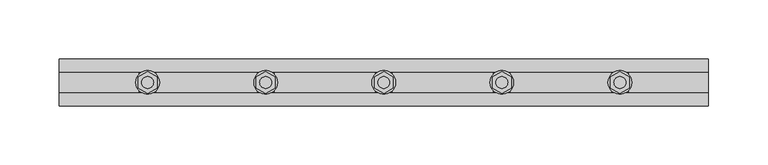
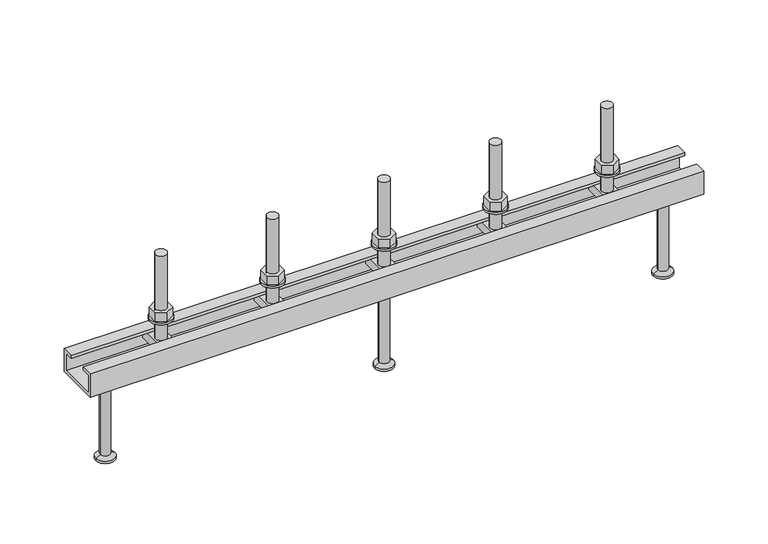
"""IFC4 building model written with IfcOpenShell, lengths in millimetres: fastener geometry, JTA-W JORDAHL® AnchorChannels : JTA-W L=550 mm."""

from ifc_helpers import new_model, si_unit, point, frame, frame_2d, origin, place, context, project, spatial, polyline, circle_curve, trimmed, segment, composite_curve, outline, extrude, source, transform, mapped, element, save
from ifc_brep_helpers import plane_surface, cylinder_surface, revolved_surface, advanced_brep


def fastener_e7c263a5(model_context):
    return source(origin(), model_context, "Body", "SolidModel", [
        extrude(outline(polyline([(375.0, 9.2376043), (383.0, 4.6188022), (383.0, -4.6188022), (375.0, -9.2376043), (367.0, -4.6188022), (367.0, 4.6188022), (375.0, 9.2376043)]), holes=[composite_curve([segment(trimmed(circle_curve(frame_2d((375.0, 0.0)), 5.0), [point((370.0, 0.0))], [point((380.0, 0.0))], True, "CARTESIAN"), True, "CONTINUOUS"), segment(trimmed(circle_curve(frame_2d((375.0, 0.0)), 5.0), [point((380.0, 0.0))], [point((370.0, 0.0))], True, "CARTESIAN"), True, "CONTINUOUS")], self_intersect=False)]), frame((0.0, 0.0, 17.0), z_axis=(0.0, 0.0, 1.0), x_axis=(1.0, 0.0, 0.0)), (0.0, 0.0, 1.0), 8.4),
        extrude(outline(composite_curve([segment(trimmed(circle_curve(frame_2d((375.0, 0.0)), 10.0), [point((365.0, 0.0))], [point((385.0, 0.0))], False, "CARTESIAN"), True, "CONTINUOUS"), segment(trimmed(circle_curve(frame_2d((375.0, 0.0)), 10.0), [point((385.0, 0.0))], [point((365.0, 0.0))], False, "CARTESIAN"), True, "CONTINUOUS")], self_intersect=False), holes=[composite_curve([segment(trimmed(circle_curve(frame_2d((375.0, 0.0)), 5.25), [point((369.75, 0.0))], [point((380.25, 0.0))], True, "CARTESIAN"), True, "CONTINUOUS"), segment(trimmed(circle_curve(frame_2d((375.0, 0.0)), 5.25), [point((380.25, 0.0))], [point((369.75, 0.0))], True, "CARTESIAN"), True, "CONTINUOUS")], self_intersect=False)]), frame((0.0, 0.0, 15.0), z_axis=(0.0, 0.0, 1.0), x_axis=(1.0, 0.0, 0.0)), (0.0, 0.0, 1.0), 2.0),
        extrude(outline(polyline([(275.0, 9.2376043), (283.0, 4.6188022), (283.0, -4.6188022), (275.0, -9.2376043), (267.0, -4.6188022), (267.0, 4.6188022), (275.0, 9.2376043)]), holes=[composite_curve([segment(trimmed(circle_curve(frame_2d((275.0, 0.0)), 5.0), [point((270.0, 0.0))], [point((280.0, 0.0))], True, "CARTESIAN"), True, "CONTINUOUS"), segment(trimmed(circle_curve(frame_2d((275.0, 0.0)), 5.0), [point((280.0, 0.0))], [point((270.0, 0.0))], True, "CARTESIAN"), True, "CONTINUOUS")], self_intersect=False)]), frame((0.0, 0.0, 17.0), z_axis=(0.0, 0.0, 1.0), x_axis=(1.0, 0.0, 0.0)), (0.0, 0.0, 1.0), 8.4),
        extrude(outline(composite_curve([segment(trimmed(circle_curve(frame_2d((275.0, 0.0)), 10.0), [point((265.0, 0.0))], [point((285.0, 0.0))], False, "CARTESIAN"), True, "CONTINUOUS"), segment(trimmed(circle_curve(frame_2d((275.0, 0.0)), 10.0), [point((285.0, 0.0))], [point((265.0, 0.0))], False, "CARTESIAN"), True, "CONTINUOUS")], self_intersect=False), holes=[composite_curve([segment(trimmed(circle_curve(frame_2d((275.0, 0.0)), 5.25), [point((269.75, 0.0))], [point((280.25, 0.0))], True, "CARTESIAN"), True, "CONTINUOUS"), segment(trimmed(circle_curve(frame_2d((275.0, 0.0)), 5.25), [point((280.25, 0.0))], [point((269.75, 0.0))], True, "CARTESIAN"), True, "CONTINUOUS")], self_intersect=False)]), frame((0.0, 0.0, 15.0), z_axis=(0.0, 0.0, 1.0), x_axis=(1.0, 0.0, 0.0)), (0.0, 0.0, 1.0), 2.0),
        extrude(outline(polyline([(175.0, 9.2376043), (183.0, 4.6188022), (183.0, -4.6188022), (175.0, -9.2376043), (167.0, -4.6188022), (167.0, 4.6188022), (175.0, 9.2376043)]), holes=[composite_curve([segment(trimmed(circle_curve(frame_2d((175.0, 0.0)), 5.0), [point((170.0, 0.0))], [point((180.0, 0.0))], True, "CARTESIAN"), True, "CONTINUOUS"), segment(trimmed(circle_curve(frame_2d((175.0, 0.0)), 5.0), [point((180.0, 0.0))], [point((170.0, 0.0))], True, "CARTESIAN"), True, "CONTINUOUS")], self_intersect=False)]), frame((0.0, 0.0, 17.0), z_axis=(0.0, 0.0, 1.0), x_axis=(1.0, 0.0, 0.0)), (0.0, 0.0, 1.0), 8.4),
        extrude(outline(composite_curve([segment(trimmed(circle_curve(frame_2d((175.0, 0.0)), 10.0), [point((165.0, 0.0))], [point((185.0, 0.0))], False, "CARTESIAN"), True, "CONTINUOUS"), segment(trimmed(circle_curve(frame_2d((175.0, 0.0)), 10.0), [point((185.0, 0.0))], [point((165.0, 0.0))], False, "CARTESIAN"), True, "CONTINUOUS")], self_intersect=False), holes=[composite_curve([segment(trimmed(circle_curve(frame_2d((175.0, 0.0)), 5.25), [point((169.75, 0.0))], [point((180.25, 0.0))], True, "CARTESIAN"), True, "CONTINUOUS"), segment(trimmed(circle_curve(frame_2d((175.0, 0.0)), 5.25), [point((180.25, 0.0))], [point((169.75, 0.0))], True, "CARTESIAN"), True, "CONTINUOUS")], self_intersect=False)]), frame((0.0, 0.0, 15.0), z_axis=(0.0, 0.0, 1.0), x_axis=(1.0, 0.0, 0.0)), (0.0, 0.0, 1.0), 2.0),
        advanced_brep(
        [(382.0, 16.25, -3.0), (382.0, -16.25, -3.0), (382.0, -16.25, -11.0), (382.0, 16.25, -11.0), (368.0, 16.25, -3.0), (368.0, 16.25, -11.0), (368.0, -16.25, -11.0), (368.0, -16.25, -3.0), (380.0, 0.0, -3.0), (370.0, 0.0, -3.0), (370.0, 0.0, 77.0), (380.0, 0.0, 77.0)],
        [
            (0, 1),
            (1, 2),
            (2, 3),
            (3, 0),
            (4, 5),
            (5, 6),
            (6, 7),
            (7, 4),
            (0, 4),
            (7, 1),
            (8, 9, circle_curve(frame((375.0, 0.0, -3.0), z_axis=(0.0, 0.0, -1.0), x_axis=(1.0, 0.0, 0.0)), 5.0)),
            (9, 8, circle_curve(frame((375.0, 0.0, -3.0), z_axis=(0.0, 0.0, -1.0), x_axis=(1.0, 0.0, 0.0)), 5.0)),
            (6, 2),
            (5, 3),
            (10, 11, circle_curve(frame((375.0, 0.0, 77.0), z_axis=(0.0, 0.0, 1.0), x_axis=(1.0, 0.0, 0.0)), 5.0)),
            (11, 10, circle_curve(frame((375.0, 0.0, 77.0), z_axis=(0.0, 0.0, 1.0), x_axis=(1.0, 0.0, 0.0)), 5.0)),
            (10, 9),
            (8, 11),
        ],
        [
            plane_surface(frame((382.0, -16.25, -3.0), z_axis=(1.0, 0.0, 0.0), x_axis=(0.0, -1.0, 0.0))),
            plane_surface(frame((368.0, -16.25, -3.0), z_axis=(-1.0, 0.0, 0.0), x_axis=(0.0, 1.0, 0.0))),
            plane_surface(frame((382.0, 16.25, -3.0), z_axis=(0.0, 0.0, 1.0), x_axis=(-1.0, 0.0, 0.0))),
            plane_surface(frame((382.0, -16.25, -3.0), z_axis=(0.0, -1.0, 0.0), x_axis=(-1.0, 0.0, 0.0))),
            plane_surface(frame((382.0, -16.25, -11.0), z_axis=(0.0, 0.0, -1.0), x_axis=(-1.0, 0.0, 0.0))),
            plane_surface(frame((382.0, 16.25, -11.0), z_axis=(0.0, 1.0, 0.0), x_axis=(-1.0, 0.0, 0.0))),
            plane_surface(frame((380.0, 0.0, 77.0), z_axis=(0.0, 0.0, 1.0), x_axis=(0.0, 1.0, 0.0))),
            cylinder_surface(frame((375.0, 0.0, -3.0), z_axis=(0.0, 0.0, 1.0), x_axis=(1.0, 0.0, 0.0)), 5.0),
        ],
        [
            (0, [[1, 2, 3, 4]]),
            (1, [[5, 6, 7, 8]]),
            (2, [[-1, 9, -8, 10], [11, 12]]),
            (3, [[-2, -10, -7, 13]]),
            (4, [[-3, -13, -6, 14]]),
            (5, [[-4, -14, -5, -9]]),
            (6, [[15, 16]]),
            (7, [[-15, 17, -11, 18]]),
            (7, [[-16, -18, -12, -17]]),
        ],
    ),
        advanced_brep(
        [(282.0, 16.25, -3.0), (282.0, -16.25, -3.0), (282.0, -16.25, -11.0), (282.0, 16.25, -11.0), (268.0, 16.25, -3.0), (268.0, 16.25, -11.0), (268.0, -16.25, -11.0), (268.0, -16.25, -3.0), (280.0, 0.0, -3.0), (270.0, 0.0, -3.0), (270.0, 0.0, 77.0), (280.0, 0.0, 77.0)],
        [
            (0, 1),
            (1, 2),
            (2, 3),
            (3, 0),
            (4, 5),
            (5, 6),
            (6, 7),
            (7, 4),
            (0, 4),
            (7, 1),
            (8, 9, circle_curve(frame((275.0, 0.0, -3.0), z_axis=(0.0, 0.0, -1.0), x_axis=(1.0, 0.0, 0.0)), 5.0)),
            (9, 8, circle_curve(frame((275.0, 0.0, -3.0), z_axis=(0.0, 0.0, -1.0), x_axis=(1.0, 0.0, 0.0)), 5.0)),
            (6, 2),
            (5, 3),
            (10, 11, circle_curve(frame((275.0, 0.0, 77.0), z_axis=(0.0, 0.0, 1.0), x_axis=(1.0, 0.0, 0.0)), 5.0)),
            (11, 10, circle_curve(frame((275.0, 0.0, 77.0), z_axis=(0.0, 0.0, 1.0), x_axis=(1.0, 0.0, 0.0)), 5.0)),
            (10, 9),
            (8, 11),
        ],
        [
            plane_surface(frame((282.0, -16.25, -3.0), z_axis=(1.0, 0.0, 0.0), x_axis=(0.0, -1.0, 0.0))),
            plane_surface(frame((268.0, -16.25, -3.0), z_axis=(-1.0, 0.0, 0.0), x_axis=(0.0, 1.0, 0.0))),
            plane_surface(frame((282.0, 16.25, -3.0), z_axis=(0.0, 0.0, 1.0), x_axis=(-1.0, 0.0, 0.0))),
            plane_surface(frame((282.0, -16.25, -3.0), z_axis=(0.0, -1.0, 0.0), x_axis=(-1.0, 0.0, 0.0))),
            plane_surface(frame((282.0, -16.25, -11.0), z_axis=(0.0, 0.0, -1.0), x_axis=(-1.0, 0.0, 0.0))),
            plane_surface(frame((282.0, 16.25, -11.0), z_axis=(0.0, 1.0, 0.0), x_axis=(-1.0, 0.0, 0.0))),
            plane_surface(frame((280.0, 0.0, 77.0), z_axis=(0.0, 0.0, 1.0), x_axis=(0.0, 1.0, 0.0))),
            cylinder_surface(frame((275.0, 0.0, -3.0), z_axis=(0.0, 0.0, 1.0), x_axis=(1.0, 0.0, 0.0)), 5.0),
        ],
        [
            (0, [[1, 2, 3, 4]]),
            (1, [[5, 6, 7, 8]]),
            (2, [[-1, 9, -8, 10], [11, 12]]),
            (3, [[-2, -10, -7, 13]]),
            (4, [[-3, -13, -6, 14]]),
            (5, [[-4, -14, -5, -9]]),
            (6, [[15, 16]]),
            (7, [[-15, 17, -11, 18]]),
            (7, [[-16, -18, -12, -17]]),
        ],
    ),
        advanced_brep(
        [(182.0, 16.25, -3.0), (182.0, -16.25, -3.0), (182.0, -16.25, -11.0), (182.0, 16.25, -11.0), (168.0, 16.25, -3.0), (168.0, 16.25, -11.0), (168.0, -16.25, -11.0), (168.0, -16.25, -3.0), (180.0, 0.0, -3.0), (170.0, 0.0, -3.0), (170.0, 0.0, 77.0), (180.0, 0.0, 77.0)],
        [
            (0, 1),
            (1, 2),
            (2, 3),
            (3, 0),
            (4, 5),
            (5, 6),
            (6, 7),
            (7, 4),
            (0, 4),
            (7, 1),
            (8, 9, circle_curve(frame((175.0, 0.0, -3.0), z_axis=(0.0, 0.0, -1.0), x_axis=(1.0, 0.0, 0.0)), 5.0)),
            (9, 8, circle_curve(frame((175.0, 0.0, -3.0), z_axis=(0.0, 0.0, -1.0), x_axis=(1.0, 0.0, 0.0)), 5.0)),
            (6, 2),
            (5, 3),
            (10, 11, circle_curve(frame((175.0, 0.0, 77.0), z_axis=(0.0, 0.0, 1.0), x_axis=(1.0, 0.0, 0.0)), 5.0)),
            (11, 10, circle_curve(frame((175.0, 0.0, 77.0), z_axis=(0.0, 0.0, 1.0), x_axis=(1.0, 0.0, 0.0)), 5.0)),
            (10, 9),
            (8, 11),
        ],
        [
            plane_surface(frame((182.0, -16.25, -3.0), z_axis=(1.0, 0.0, 0.0), x_axis=(0.0, -1.0, 0.0))),
            plane_surface(frame((168.0, -16.25, -3.0), z_axis=(-1.0, 0.0, 0.0), x_axis=(0.0, 1.0, 0.0))),
            plane_surface(frame((182.0, 16.25, -3.0), z_axis=(0.0, 0.0, 1.0), x_axis=(-1.0, 0.0, 0.0))),
            plane_surface(frame((182.0, -16.25, -3.0), z_axis=(0.0, -1.0, 0.0), x_axis=(-1.0, 0.0, 0.0))),
            plane_surface(frame((182.0, -16.25, -11.0), z_axis=(0.0, 0.0, -1.0), x_axis=(-1.0, 0.0, 0.0))),
            plane_surface(frame((182.0, 16.25, -11.0), z_axis=(0.0, 1.0, 0.0), x_axis=(-1.0, 0.0, 0.0))),
            plane_surface(frame((180.0, 0.0, 77.0), z_axis=(0.0, 0.0, 1.0), x_axis=(0.0, 1.0, 0.0))),
            cylinder_surface(frame((175.0, 0.0, -3.0), z_axis=(0.0, 0.0, 1.0), x_axis=(1.0, 0.0, 0.0)), 5.0),
        ],
        [
            (0, [[1, 2, 3, 4]]),
            (1, [[5, 6, 7, 8]]),
            (2, [[-1, 9, -8, 10], [11, 12]]),
            (3, [[-2, -10, -7, 13]]),
            (4, [[-3, -13, -6, 14]]),
            (5, [[-4, -14, -5, -9]]),
            (6, [[15, 16]]),
            (7, [[-15, 17, -11, 18]]),
            (7, [[-16, -18, -12, -17]]),
        ],
    ),
        advanced_brep(
        [(275.0, 0.0, -22.0), (288.5, 0.0, -22.0), (261.5, 0.0, -22.0), (266.5, 0.0, -100.0), (283.5, 0.0, -100.0), (275.0, 0.0, -100.0), (266.5, 0.0, -98.0), (283.5, 0.0, -98.0), (270.5, 0.0, -95.6905989), (279.5, 0.0, -95.6905989), (270.5, 0.0, -24.5), (279.5, 0.0, -24.5)],
        [
            (0, 1),
            (1, 2, circle_curve(frame((275.0, 0.0, -22.0), z_axis=(0.0, 0.0, 1.0), x_axis=(1.0, 0.0, 0.0)), 13.5)),
            (2, 0),
            (2, 1, circle_curve(frame((275.0, 0.0, -22.0), z_axis=(0.0, 0.0, 1.0), x_axis=(1.0, 0.0, 0.0)), 13.5)),
            (3, 4, circle_curve(frame((275.0, 0.0, -100.0), z_axis=(0.0, 0.0, -1.0), x_axis=(1.0, 0.0, 0.0)), 8.5)),
            (4, 5),
            (5, 3),
            (4, 3, circle_curve(frame((275.0, 0.0, -100.0), z_axis=(0.0, 0.0, -1.0), x_axis=(1.0, 0.0, 0.0)), 8.5)),
            (6, 7, circle_curve(frame((275.0, 0.0, -98.0), z_axis=(0.0, 0.0, -1.0), x_axis=(1.0, 0.0, 0.0)), 8.5)),
            (7, 4),
            (3, 6),
            (7, 6, circle_curve(frame((275.0, 0.0, -98.0), z_axis=(0.0, 0.0, -1.0), x_axis=(1.0, 0.0, 0.0)), 8.5)),
            (8, 9, circle_curve(frame((275.0, 0.0, -95.6905989), z_axis=(0.0, 0.0, -1.0), x_axis=(1.0, 0.0, 0.0)), 4.5)),
            (9, 7),
            (6, 8),
            (9, 8, circle_curve(frame((275.0, 0.0, -95.6905989), z_axis=(0.0, 0.0, -1.0), x_axis=(1.0, 0.0, 0.0)), 4.5)),
            (10, 11, circle_curve(frame((275.0, 0.0, -24.5), z_axis=(0.0, 0.0, -1.0), x_axis=(1.0, 0.0, 0.0)), 4.5)),
            (11, 9),
            (8, 10),
            (11, 10, circle_curve(frame((275.0, 0.0, -24.5), z_axis=(0.0, 0.0, -1.0), x_axis=(1.0, 0.0, 0.0)), 4.5)),
            (1, 11),
            (10, 2),
        ],
        [
            plane_surface(frame((275.0, 0.0, -22.0), z_axis=(0.0, 0.0, 1.0), x_axis=(1.0, 0.0, 0.0))),
            plane_surface(frame((275.0, 0.0, -100.0), z_axis=(0.0, 0.0, -1.0), x_axis=(1.0, 0.0, 0.0))),
            cylinder_surface(frame((275.0, 0.0, 2292.3150031), z_axis=(0.0, 0.0, 1.0), x_axis=(1.0, 0.0, 0.0)), 8.5),
            revolved_surface(polyline([(283.5, 0.0, -98.0), (279.5, 0.0, -95.6905989)]), (275.0, 0.0, 2292.3150031), (0.0, 0.0, 1.0)),
            cylinder_surface(frame((275.0, 0.0, 2292.3150031), z_axis=(0.0, 0.0, 1.0), x_axis=(1.0, 0.0, 0.0)), 4.5),
            revolved_surface(polyline([(279.5, 0.0, -24.5), (288.5, 0.0, -22.0)]), (275.0, 0.0, 2292.3150031), (0.0, 0.0, 1.0)),
        ],
        [
            (0, [[1, 2, 3]]),
            (0, [[-3, 4, -1]]),
            (1, [[5, 6, 7]]),
            (1, [[8, -7, -6]]),
            (2, [[9, 10, -5, 11]]),
            (2, [[12, -11, -8, -10]]),
            (3, [[13, 14, -9, 15]]),
            (3, [[16, -15, -12, -14]]),
            (4, [[17, 18, -13, 19]]),
            (4, [[20, -19, -16, -18]]),
            (5, [[-2, 21, -17, 22]]),
            (5, [[-4, -22, -20, -21]]),
        ],
    ),
        extrude(outline(polyline([(475.0, 9.2376043), (483.0, 4.6188022), (483.0, -4.6188022), (475.0, -9.2376043), (467.0, -4.6188022), (467.0, 4.6188022), (475.0, 9.2376043)]), holes=[composite_curve([segment(trimmed(circle_curve(frame_2d((475.0, 0.0)), 5.0), [point((470.0, 0.0))], [point((480.0, 0.0))], True, "CARTESIAN"), True, "CONTINUOUS"), segment(trimmed(circle_curve(frame_2d((475.0, 0.0)), 5.0), [point((480.0, 0.0))], [point((470.0, 0.0))], True, "CARTESIAN"), True, "CONTINUOUS")], self_intersect=False)]), frame((0.0, 0.0, 17.0), z_axis=(0.0, 0.0, 1.0), x_axis=(1.0, 0.0, 0.0)), (0.0, 0.0, 1.0), 8.4),
        extrude(outline(composite_curve([segment(trimmed(circle_curve(frame_2d((475.0, 0.0)), 10.0), [point((465.0, 0.0))], [point((485.0, 0.0))], False, "CARTESIAN"), True, "CONTINUOUS"), segment(trimmed(circle_curve(frame_2d((475.0, 0.0)), 10.0), [point((485.0, 0.0))], [point((465.0, 0.0))], False, "CARTESIAN"), True, "CONTINUOUS")], self_intersect=False), holes=[composite_curve([segment(trimmed(circle_curve(frame_2d((475.0, 0.0)), 5.25), [point((469.75, 0.0))], [point((480.25, 0.0))], True, "CARTESIAN"), True, "CONTINUOUS"), segment(trimmed(circle_curve(frame_2d((475.0, 0.0)), 5.25), [point((480.25, 0.0))], [point((469.75, 0.0))], True, "CARTESIAN"), True, "CONTINUOUS")], self_intersect=False)]), frame((0.0, 0.0, 15.0), z_axis=(0.0, 0.0, 1.0), x_axis=(1.0, 0.0, 0.0)), (0.0, 0.0, 1.0), 2.0),
        extrude(outline(polyline([(75.0, 9.2376043), (83.0, 4.6188022), (83.0, -4.6188022), (75.0, -9.2376043), (67.0, -4.6188022), (67.0, 4.6188022), (75.0, 9.2376043)]), holes=[composite_curve([segment(trimmed(circle_curve(frame_2d((75.0, 0.0)), 5.0), [point((70.0, 0.0))], [point((80.0, 0.0))], True, "CARTESIAN"), True, "CONTINUOUS"), segment(trimmed(circle_curve(frame_2d((75.0, 0.0)), 5.0), [point((80.0, 0.0))], [point((70.0, 0.0))], True, "CARTESIAN"), True, "CONTINUOUS")], self_intersect=False)]), frame((0.0, 0.0, 17.0), z_axis=(0.0, 0.0, 1.0), x_axis=(1.0, 0.0, 0.0)), (0.0, 0.0, 1.0), 8.4),
        extrude(outline(composite_curve([segment(trimmed(circle_curve(frame_2d((75.0, 0.0)), 10.0), [point((65.0, 0.0))], [point((85.0, 0.0))], False, "CARTESIAN"), True, "CONTINUOUS"), segment(trimmed(circle_curve(frame_2d((75.0, 0.0)), 10.0), [point((85.0, 0.0))], [point((65.0, 0.0))], False, "CARTESIAN"), True, "CONTINUOUS")], self_intersect=False), holes=[composite_curve([segment(trimmed(circle_curve(frame_2d((75.0, 0.0)), 5.25), [point((69.75, 0.0))], [point((80.25, 0.0))], True, "CARTESIAN"), True, "CONTINUOUS"), segment(trimmed(circle_curve(frame_2d((75.0, 0.0)), 5.25), [point((80.25, 0.0))], [point((69.75, 0.0))], True, "CARTESIAN"), True, "CONTINUOUS")], self_intersect=False)]), frame((0.0, 0.0, 15.0), z_axis=(0.0, 0.0, 1.0), x_axis=(1.0, 0.0, 0.0)), (0.0, 0.0, 1.0), 2.0),
        advanced_brep(
        [(482.0, 16.25, -3.0), (482.0, -16.25, -3.0), (482.0, -16.25, -11.0), (482.0, 16.25, -11.0), (468.0, 16.25, -3.0), (468.0, 16.25, -11.0), (468.0, -16.25, -11.0), (468.0, -16.25, -3.0), (480.0, 0.0, -3.0), (470.0, 0.0, -3.0), (470.0, 0.0, 77.0), (480.0, 0.0, 77.0)],
        [
            (0, 1),
            (1, 2),
            (2, 3),
            (3, 0),
            (4, 5),
            (5, 6),
            (6, 7),
            (7, 4),
            (0, 4),
            (7, 1),
            (8, 9, circle_curve(frame((475.0, 0.0, -3.0), z_axis=(0.0, 0.0, -1.0), x_axis=(1.0, 0.0, 0.0)), 5.0)),
            (9, 8, circle_curve(frame((475.0, 0.0, -3.0), z_axis=(0.0, 0.0, -1.0), x_axis=(1.0, 0.0, 0.0)), 5.0)),
            (6, 2),
            (5, 3),
            (10, 11, circle_curve(frame((475.0, 0.0, 77.0), z_axis=(0.0, 0.0, 1.0), x_axis=(1.0, 0.0, 0.0)), 5.0)),
            (11, 10, circle_curve(frame((475.0, 0.0, 77.0), z_axis=(0.0, 0.0, 1.0), x_axis=(1.0, 0.0, 0.0)), 5.0)),
            (10, 9),
            (8, 11),
        ],
        [
            plane_surface(frame((482.0, -16.25, -3.0), z_axis=(1.0, 0.0, 0.0), x_axis=(0.0, -1.0, 0.0))),
            plane_surface(frame((468.0, -16.25, -3.0), z_axis=(-1.0, 0.0, 0.0), x_axis=(0.0, 1.0, 0.0))),
            plane_surface(frame((482.0, 16.25, -3.0), z_axis=(0.0, 0.0, 1.0), x_axis=(-1.0, 0.0, 0.0))),
            plane_surface(frame((482.0, -16.25, -3.0), z_axis=(0.0, -1.0, 0.0), x_axis=(-1.0, 0.0, 0.0))),
            plane_surface(frame((482.0, -16.25, -11.0), z_axis=(0.0, 0.0, -1.0), x_axis=(-1.0, 0.0, 0.0))),
            plane_surface(frame((482.0, 16.25, -11.0), z_axis=(0.0, 1.0, 0.0), x_axis=(-1.0, 0.0, 0.0))),
            plane_surface(frame((480.0, 0.0, 77.0), z_axis=(0.0, 0.0, 1.0), x_axis=(0.0, 1.0, 0.0))),
            cylinder_surface(frame((475.0, 0.0, -3.0), z_axis=(0.0, 0.0, 1.0), x_axis=(1.0, 0.0, 0.0)), 5.0),
        ],
        [
            (0, [[1, 2, 3, 4]]),
            (1, [[5, 6, 7, 8]]),
            (2, [[-1, 9, -8, 10], [11, 12]]),
            (3, [[-2, -10, -7, 13]]),
            (4, [[-3, -13, -6, 14]]),
            (5, [[-4, -14, -5, -9]]),
            (6, [[15, 16]]),
            (7, [[-15, 17, -11, 18]]),
            (7, [[-16, -18, -12, -17]]),
        ],
    ),
        advanced_brep(
        [(82.0, 16.25, -3.0), (82.0, -16.25, -3.0), (82.0, -16.25, -11.0), (82.0, 16.25, -11.0), (68.0, 16.25, -3.0), (68.0, 16.25, -11.0), (68.0, -16.25, -11.0), (68.0, -16.25, -3.0), (80.0, 0.0, -3.0), (70.0, 0.0, -3.0), (70.0, 0.0, 77.0), (80.0, 0.0, 77.0)],
        [
            (0, 1),
            (1, 2),
            (2, 3),
            (3, 0),
            (4, 5),
            (5, 6),
            (6, 7),
            (7, 4),
            (0, 4),
            (7, 1),
            (8, 9, circle_curve(frame((75.0, 0.0, -3.0), z_axis=(0.0, 0.0, -1.0), x_axis=(1.0, 0.0, 0.0)), 5.0)),
            (9, 8, circle_curve(frame((75.0, 0.0, -3.0), z_axis=(0.0, 0.0, -1.0), x_axis=(1.0, 0.0, 0.0)), 5.0)),
            (6, 2),
            (5, 3),
            (10, 11, circle_curve(frame((75.0, 0.0, 77.0), z_axis=(0.0, 0.0, 1.0), x_axis=(1.0, 0.0, 0.0)), 5.0)),
            (11, 10, circle_curve(frame((75.0, 0.0, 77.0), z_axis=(0.0, 0.0, 1.0), x_axis=(1.0, 0.0, 0.0)), 5.0)),
            (10, 9),
            (8, 11),
        ],
        [
            plane_surface(frame((82.0, -16.25, -3.0), z_axis=(1.0, 0.0, 0.0), x_axis=(0.0, -1.0, 0.0))),
            plane_surface(frame((68.0, -16.25, -3.0), z_axis=(-1.0, 0.0, 0.0), x_axis=(0.0, 1.0, 0.0))),
            plane_surface(frame((82.0, 16.25, -3.0), z_axis=(0.0, 0.0, 1.0), x_axis=(-1.0, 0.0, 0.0))),
            plane_surface(frame((82.0, -16.25, -3.0), z_axis=(0.0, -1.0, 0.0), x_axis=(-1.0, 0.0, 0.0))),
            plane_surface(frame((82.0, -16.25, -11.0), z_axis=(0.0, 0.0, -1.0), x_axis=(-1.0, 0.0, 0.0))),
            plane_surface(frame((82.0, 16.25, -11.0), z_axis=(0.0, 1.0, 0.0), x_axis=(-1.0, 0.0, 0.0))),
            plane_surface(frame((80.0, 0.0, 77.0), z_axis=(0.0, 0.0, 1.0), x_axis=(0.0, 1.0, 0.0))),
            cylinder_surface(frame((75.0, 0.0, -3.0), z_axis=(0.0, 0.0, 1.0), x_axis=(1.0, 0.0, 0.0)), 5.0),
        ],
        [
            (0, [[1, 2, 3, 4]]),
            (1, [[5, 6, 7, 8]]),
            (2, [[-1, 9, -8, 10], [11, 12]]),
            (3, [[-2, -10, -7, 13]]),
            (4, [[-3, -13, -6, 14]]),
            (5, [[-4, -14, -5, -9]]),
            (6, [[15, 16]]),
            (7, [[-15, 17, -11, 18]]),
            (7, [[-16, -18, -12, -17]]),
        ],
    ),
        advanced_brep(
        [(525.0, 0.0, -22.0), (538.5, 0.0, -22.0), (511.5, 0.0, -22.0), (516.5, 0.0, -100.0), (533.5, 0.0, -100.0), (525.0, 0.0, -100.0), (516.5, 0.0, -98.0), (533.5, 0.0, -98.0), (520.5, 0.0, -95.6905989), (529.5, 0.0, -95.6905989), (520.5, 0.0, -24.5), (529.5, 0.0, -24.5)],
        [
            (0, 1),
            (1, 2, circle_curve(frame((525.0, 0.0, -22.0), z_axis=(0.0, 0.0, 1.0), x_axis=(1.0, 0.0, 0.0)), 13.5)),
            (2, 0),
            (2, 1, circle_curve(frame((525.0, 0.0, -22.0), z_axis=(0.0, 0.0, 1.0), x_axis=(1.0, 0.0, 0.0)), 13.5)),
            (3, 4, circle_curve(frame((525.0, 0.0, -100.0), z_axis=(0.0, 0.0, -1.0), x_axis=(1.0, 0.0, 0.0)), 8.5)),
            (4, 5),
            (5, 3),
            (4, 3, circle_curve(frame((525.0, 0.0, -100.0), z_axis=(0.0, 0.0, -1.0), x_axis=(1.0, 0.0, 0.0)), 8.5)),
            (6, 7, circle_curve(frame((525.0, 0.0, -98.0), z_axis=(0.0, 0.0, -1.0), x_axis=(1.0, 0.0, 0.0)), 8.5)),
            (7, 4),
            (3, 6),
            (7, 6, circle_curve(frame((525.0, 0.0, -98.0), z_axis=(0.0, 0.0, -1.0), x_axis=(1.0, 0.0, 0.0)), 8.5)),
            (8, 9, circle_curve(frame((525.0, 0.0, -95.6905989), z_axis=(0.0, 0.0, -1.0), x_axis=(1.0, 0.0, 0.0)), 4.5)),
            (9, 7),
            (6, 8),
            (9, 8, circle_curve(frame((525.0, 0.0, -95.6905989), z_axis=(0.0, 0.0, -1.0), x_axis=(1.0, 0.0, 0.0)), 4.5)),
            (10, 11, circle_curve(frame((525.0, 0.0, -24.5), z_axis=(0.0, 0.0, -1.0), x_axis=(1.0, 0.0, 0.0)), 4.5)),
            (11, 9),
            (8, 10),
            (11, 10, circle_curve(frame((525.0, 0.0, -24.5), z_axis=(0.0, 0.0, -1.0), x_axis=(1.0, 0.0, 0.0)), 4.5)),
            (1, 11),
            (10, 2),
        ],
        [
            plane_surface(frame((525.0, 0.0, -22.0), z_axis=(0.0, 0.0, 1.0), x_axis=(1.0, 0.0, 0.0))),
            plane_surface(frame((525.0, 0.0, -100.0), z_axis=(0.0, 0.0, -1.0), x_axis=(1.0, 0.0, 0.0))),
            cylinder_surface(frame((525.0, 0.0, 2292.3150031), z_axis=(0.0, 0.0, 1.0), x_axis=(1.0, 0.0, 0.0)), 8.5),
            revolved_surface(polyline([(533.5, 0.0, -98.0), (529.5, 0.0, -95.6905989)]), (525.0, 0.0, 2292.3150031), (0.0, 0.0, 1.0)),
            cylinder_surface(frame((525.0, 0.0, 2292.3150031), z_axis=(0.0, 0.0, 1.0), x_axis=(1.0, 0.0, 0.0)), 4.5),
            revolved_surface(polyline([(529.5, 0.0, -24.5), (538.5, 0.0, -22.0)]), (525.0, 0.0, 2292.3150031), (0.0, 0.0, 1.0)),
        ],
        [
            (0, [[1, 2, 3]]),
            (0, [[-3, 4, -1]]),
            (1, [[5, 6, 7]]),
            (1, [[8, -7, -6]]),
            (2, [[9, 10, -5, 11]]),
            (2, [[12, -11, -8, -10]]),
            (3, [[13, 14, -9, 15]]),
            (3, [[16, -15, -12, -14]]),
            (4, [[17, 18, -13, 19]]),
            (4, [[20, -19, -16, -18]]),
            (5, [[-2, 21, -17, 22]]),
            (5, [[-4, -22, -20, -21]]),
        ],
    ),
        advanced_brep(
        [(25.0, 0.0, -22.0), (38.5, 0.0, -22.0), (11.5, 0.0, -22.0), (16.5, 0.0, -100.0), (33.5, 0.0, -100.0), (25.0, 0.0, -100.0), (16.5, 0.0, -98.0), (33.5, 0.0, -98.0), (20.5, 0.0, -95.6905989), (29.5, 0.0, -95.6905989), (20.5, 0.0, -24.5), (29.5, 0.0, -24.5)],
        [
            (0, 1),
            (1, 2, circle_curve(frame((25.0, 0.0, -22.0), z_axis=(0.0, 0.0, 1.0), x_axis=(1.0, 0.0, 0.0)), 13.5)),
            (2, 0),
            (2, 1, circle_curve(frame((25.0, 0.0, -22.0), z_axis=(0.0, 0.0, 1.0), x_axis=(1.0, 0.0, 0.0)), 13.5)),
            (3, 4, circle_curve(frame((25.0, 0.0, -100.0), z_axis=(0.0, 0.0, -1.0), x_axis=(1.0, 0.0, 0.0)), 8.5)),
            (4, 5),
            (5, 3),
            (4, 3, circle_curve(frame((25.0, 0.0, -100.0), z_axis=(0.0, 0.0, -1.0), x_axis=(1.0, 0.0, 0.0)), 8.5)),
            (6, 7, circle_curve(frame((25.0, 0.0, -98.0), z_axis=(0.0, 0.0, -1.0), x_axis=(1.0, 0.0, 0.0)), 8.5)),
            (7, 4),
            (3, 6),
            (7, 6, circle_curve(frame((25.0, 0.0, -98.0), z_axis=(0.0, 0.0, -1.0), x_axis=(1.0, 0.0, 0.0)), 8.5)),
            (8, 9, circle_curve(frame((25.0, 0.0, -95.6905989), z_axis=(0.0, 0.0, -1.0), x_axis=(1.0, 0.0, 0.0)), 4.5)),
            (9, 7),
            (6, 8),
            (9, 8, circle_curve(frame((25.0, 0.0, -95.6905989), z_axis=(0.0, 0.0, -1.0), x_axis=(1.0, 0.0, 0.0)), 4.5)),
            (10, 11, circle_curve(frame((25.0, 0.0, -24.5), z_axis=(0.0, 0.0, -1.0), x_axis=(1.0, 0.0, 0.0)), 4.5)),
            (11, 9),
            (8, 10),
            (11, 10, circle_curve(frame((25.0, 0.0, -24.5), z_axis=(0.0, 0.0, -1.0), x_axis=(1.0, 0.0, 0.0)), 4.5)),
            (1, 11),
            (10, 2),
        ],
        [
            plane_surface(frame((25.0, 0.0, -22.0), z_axis=(0.0, 0.0, 1.0), x_axis=(1.0, 0.0, 0.0))),
            plane_surface(frame((25.0, 0.0, -100.0), z_axis=(0.0, 0.0, -1.0), x_axis=(1.0, 0.0, 0.0))),
            cylinder_surface(frame((25.0, 0.0, 2292.3150031), z_axis=(0.0, 0.0, 1.0), x_axis=(1.0, 0.0, 0.0)), 8.5),
            revolved_surface(polyline([(33.5, 0.0, -98.0), (29.5, 0.0, -95.6905989)]), (25.0, 0.0, 2292.3150031), (0.0, 0.0, 1.0)),
            cylinder_surface(frame((25.0, 0.0, 2292.3150031), z_axis=(0.0, 0.0, 1.0), x_axis=(1.0, 0.0, 0.0)), 4.5),
            revolved_surface(polyline([(29.5, 0.0, -24.5), (38.5, 0.0, -22.0)]), (25.0, 0.0, 2292.3150031), (0.0, 0.0, 1.0)),
        ],
        [
            (0, [[1, 2, 3]]),
            (0, [[-3, 4, -1]]),
            (1, [[5, 6, 7]]),
            (1, [[8, -7, -6]]),
            (2, [[9, 10, -5, 11]]),
            (2, [[12, -11, -8, -10]]),
            (3, [[13, 14, -9, 15]]),
            (3, [[16, -15, -12, -14]]),
            (4, [[17, 18, -13, 19]]),
            (4, [[20, -19, -16, -18]]),
            (5, [[-2, 21, -17, 22]]),
            (5, [[-4, -22, -20, -21]]),
        ],
    ),
        extrude(outline(polyline([(20.0, 0.0), (20.0, -22.0), (-20.0, -22.0), (-20.0, 0.0), (-9.0, 0.0), (-9.0, -3.0), (-17.5, -3.0), (-17.5, -19.5), (17.5, -19.5), (17.5, -3.0), (9.0, -3.0), (9.0, 0.0), (20.0, 0.0)])), frame((0.0, 0.0, 0.0), z_axis=(1.0, 0.0, 0.0), x_axis=(0.0, 1.0, 0.0)), (0.0, 0.0, 1.0), 550.0),
    ])


if __name__ == "__main__":
    model = new_model("IFC4")
    model_context = context("Model", 3, world=origin())
    ifc_project = project(units=[si_unit("LENGTHUNIT", "METRE", prefix="MILLI")], contexts=[model_context])
    site = spatial("IfcSite", under=ifc_project)
    building = spatial("IfcBuilding", under=site)
    placement = place(None, origin())
    fastener_shape = fastener_e7c263a5(model_context)
    element("IfcFastener", 1, ObjectType="JTA-W JORDAHL® AnchorChannels : JTA-W L=550 mm", at=placement, inside=building, context=model_context, shape_type="MappedRepresentation", body=[
        mapped(fastener_shape, transform((0.0, 0.0, 0.0), x_axis=(1.0, 0.0, 0.0), y_axis=(0.0, 1.0, 0.0), z_axis=(0.0, 0.0, 1.0))),
    ])
    save(model, "model.ifc")
